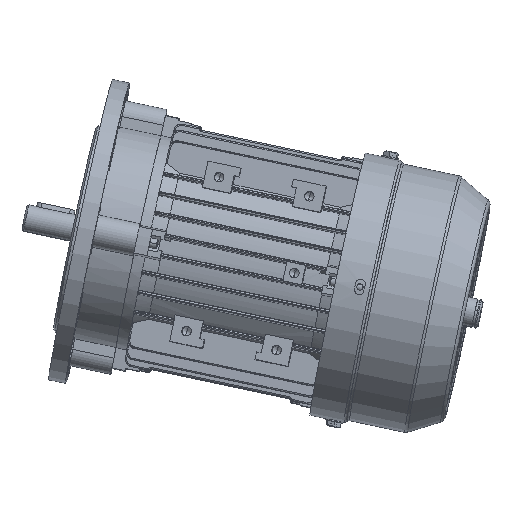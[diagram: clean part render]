
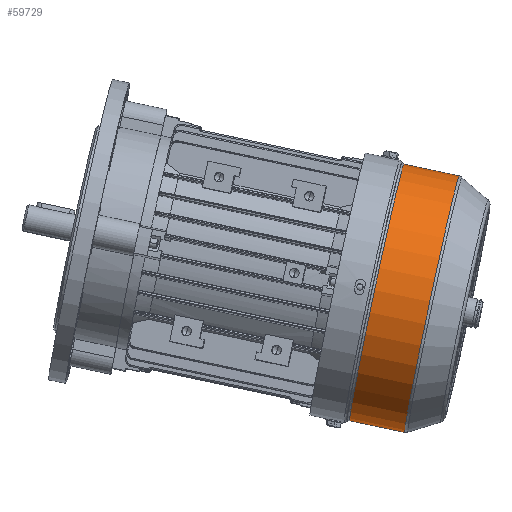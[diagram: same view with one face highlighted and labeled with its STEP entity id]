
A CAD part, front view. The second image highlights one B-rep face of the part: STEP entity #59729.
In plain terms, the highlighted cylindrical face has radius 68.3 mm (diameter 136.6 mm), a partial arc.
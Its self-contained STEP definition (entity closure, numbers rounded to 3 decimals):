
#1544 = VERTEX_POINT ( 'NONE', #16038 ) ;
#4767 = VERTEX_POINT ( 'NONE', #67442 ) ;
#5201 = AXIS2_PLACEMENT_3D ( 'NONE', #35892, #90286, #50442 ) ;
#11472 = AXIS2_PLACEMENT_3D ( 'NONE', #28561, #13012, #20766 ) ;
#13012 = DIRECTION ( 'NONE',  ( -1., 0., 0. ) ) ;
#13039 = AXIS2_PLACEMENT_3D ( 'NONE', #53247, #92123, #99890 ) ;
#16038 = CARTESIAN_POINT ( 'NONE',  ( 47.197, 0., 68.3 ) ) ;
#18019 = VECTOR ( 'NONE', #52078, 1000. ) ;
#20300 = CARTESIAN_POINT ( 'NONE',  ( 0., 0., 68.3 ) ) ;
#20766 = DIRECTION ( 'NONE',  ( 0., 0., 1. ) ) ;
#22576 = ORIENTED_EDGE ( 'NONE', *, *, #47065, .F. ) ;
#22642 = ORIENTED_EDGE ( 'NONE', *, *, #80777, .F. ) ;
#24487 = CARTESIAN_POINT ( 'NONE',  ( 47.197, 0., -68.3 ) ) ;
#28561 = CARTESIAN_POINT ( 'NONE',  ( 17.775, 0., 0. ) ) ;
#32861 = ORIENTED_EDGE ( 'NONE', *, *, #88533, .T. ) ;
#34127 = VERTEX_POINT ( 'NONE', #36701 ) ;
#35109 = DIRECTION ( 'NONE',  ( -1., 0., 0. ) ) ;
#35625 = EDGE_CURVE ( 'NONE', #1544, #34127, #69999, .T. ) ;
#35892 = CARTESIAN_POINT ( 'NONE',  ( 47.197, 0., 0. ) ) ;
#36701 = CARTESIAN_POINT ( 'NONE',  ( 17.775, 0., 68.3 ) ) ;
#38822 = VERTEX_POINT ( 'NONE', #24487 ) ;
#47065 = EDGE_CURVE ( 'NONE', #4767, #34127, #48787, .T. ) ;
#48787 = CIRCLE ( 'NONE', #11472, 68.3 ) ;
#50442 = DIRECTION ( 'NONE',  ( 0., 0., 1. ) ) ;
#52078 = DIRECTION ( 'NONE',  ( -1., 0., 0. ) ) ;
#53247 = CARTESIAN_POINT ( 'NONE',  ( 0., 0., 0. ) ) ;
#56886 = CYLINDRICAL_SURFACE ( 'NONE', #13039, 68.3 ) ;
#59729 = ADVANCED_FACE ( 'NONE', ( #90715 ), #56886, .T. ) ;
#67442 = CARTESIAN_POINT ( 'NONE',  ( 17.775, 0., -68.3 ) ) ;
#67583 = VECTOR ( 'NONE', #35109, 1000. ) ;
#69999 = LINE ( 'NONE', #20300, #18019 ) ;
#77227 = ORIENTED_EDGE ( 'NONE', *, *, #35625, .T. ) ;
#79652 = LINE ( 'NONE', #97563, #67583 ) ;
#80777 = EDGE_CURVE ( 'NONE', #38822, #4767, #79652, .T. ) ;
#84214 = EDGE_LOOP ( 'NONE', ( #22642, #32861, #77227, #22576 ) ) ;
#86802 = CIRCLE ( 'NONE', #5201, 68.3 ) ;
#88533 = EDGE_CURVE ( 'NONE', #38822, #1544, #86802, .T. ) ;
#90286 = DIRECTION ( 'NONE',  ( -1., 0., 0. ) ) ;
#90715 = FACE_OUTER_BOUND ( 'NONE', #84214, .T. ) ;
#92123 = DIRECTION ( 'NONE',  ( -1., 0., 0. ) ) ;
#97563 = CARTESIAN_POINT ( 'NONE',  ( 0., 0., -68.3 ) ) ;
#99890 = DIRECTION ( 'NONE',  ( 0., 0., 1. ) ) ;
